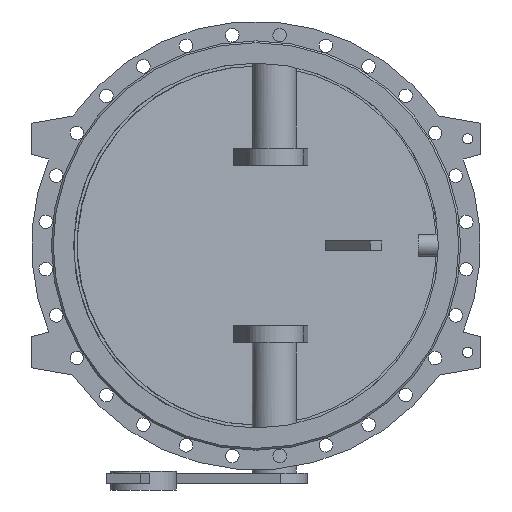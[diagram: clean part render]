
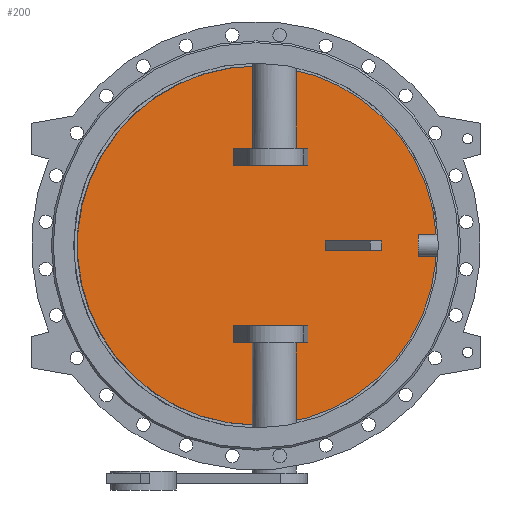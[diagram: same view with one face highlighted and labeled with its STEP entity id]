
A CAD part, front view. The second image highlights one B-rep face of the part: STEP entity #200.
In plain terms, the highlighted planar face has unit normal (0.131, -0.991, 0).
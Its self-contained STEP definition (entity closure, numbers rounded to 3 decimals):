
#200=ADVANCED_FACE('',(#1583,#1585,#1587,#1589),#1591,.T.);
#1583=FACE_BOUND('',#1584,.T.);
#1584=EDGE_LOOP('',(#3094));
#1585=FACE_BOUND('',#1586,.T.);
#1586=EDGE_LOOP('',(#3095,#3096,#3097,#3098));
#1587=FACE_BOUND('',#1588,.T.);
#1588=EDGE_LOOP('',(#3099,#3100,#3101,#3102));
#1589=FACE_BOUND('',#1590,.T.);
#1590=EDGE_LOOP('',(#3103,#3104,#3105,#3106));
#1591=PLANE('',#1592);
#1592=AXIS2_PLACEMENT_3D('',#1593,#1594,#1595);
#1593=CARTESIAN_POINT('',(-1.272,9.66,0.));
#1594=DIRECTION('',(0.131,-0.991,0.));
#1595=DIRECTION('',(0.,0.,-1.));
#3094=ORIENTED_EDGE('',*,*,#3711,.T.);
#3095=ORIENTED_EDGE('',*,*,#3715,.F.);
#3096=ORIENTED_EDGE('',*,*,#3716,.F.);
#3097=ORIENTED_EDGE('',*,*,#3717,.F.);
#3098=ORIENTED_EDGE('',*,*,#3718,.F.);
#3099=ORIENTED_EDGE('',*,*,#3719,.F.);
#3100=ORIENTED_EDGE('',*,*,#3720,.F.);
#3101=ORIENTED_EDGE('',*,*,#3721,.F.);
#3102=ORIENTED_EDGE('',*,*,#3722,.F.);
#3103=ORIENTED_EDGE('',*,*,#3723,.F.);
#3104=ORIENTED_EDGE('',*,*,#3724,.F.);
#3105=ORIENTED_EDGE('',*,*,#3725,.F.);
#3106=ORIENTED_EDGE('',*,*,#3726,.F.);
#3711=EDGE_CURVE('',#4056,#4056,#4057,.T.);
#3715=EDGE_CURVE('',#4064,#4065,#4066,.T.);
#3716=EDGE_CURVE('',#4067,#4064,#4068,.F.);
#3717=EDGE_CURVE('',#4069,#4067,#4070,.T.);
#3718=EDGE_CURVE('',#4065,#4069,#4071,.T.);
#3719=EDGE_CURVE('',#4072,#4073,#4074,.F.);
#3720=EDGE_CURVE('',#4075,#4072,#4076,.T.);
#3721=EDGE_CURVE('',#4077,#4075,#4078,.T.);
#3722=EDGE_CURVE('',#4073,#4077,#4079,.T.);
#3723=EDGE_CURVE('',#4080,#4081,#4082,.T.);
#3724=EDGE_CURVE('',#4083,#4080,#4084,.F.);
#3725=EDGE_CURVE('',#4085,#4083,#4086,.F.);
#3726=EDGE_CURVE('',#4081,#4085,#4087,.F.);
#4056=VERTEX_POINT('',#5252);
#4057=B_SPLINE_CURVE_WITH_KNOTS('',3,
(#5253,#5254,#5255,#5256,#5257,#5258,#5259,#5260,#5261,#5262,#5263,#5264,#5265,#5266,
#5267,#5268,#5269,#5270,#5271,#5272,#5273,#5274,#5275,#5276,#5277,#5278,#5279,#5280,
#5281,#5282,#5283,#5284,#5285,#5286,#5287,#5288,#5289,#5290,#5291,#5292,#5293,#5294,
#5295,#5296,#5297,#5298,#5299,#5300,#5301,#5302,#5303),
.UNSPECIFIED.,.T.,.F.,
(4,1,1,1,1,1,1,1,1,1,1,1,1,1,1,1,1,1,1,1,1,1,1,1,1,1,1,1,1,1,1,1,1,1,1,1,1,1,1,1,
1,1,1,1,1,1,1,1,4),
(0.,0.021,0.042,0.063,0.084,
0.105,0.126,0.147,0.168,0.189,
0.211,0.232,0.253,0.274,0.295,
0.316,0.337,0.358,0.379,0.4,
0.421,0.442,0.463,0.484,0.505,
0.527,0.548,0.569,0.59,0.611,
0.632,0.653,0.674,0.695,0.716,
0.737,0.758,0.779,0.8,0.821,
0.842,0.864,0.885,0.906,0.927,
0.948,0.969,0.986,1.),
.UNSPECIFIED.);
#4064=VERTEX_POINT('',#5366);
#4065=VERTEX_POINT('',#5367);
#4066=LINE('',#5368,#5369);
#4067=VERTEX_POINT('',#5371);
#4068=LINE('',#5372,#5373);
#4069=VERTEX_POINT('',#5375);
#4070=LINE('',#5376,#5377);
#4071=LINE('',#5379,#5380);
#4072=VERTEX_POINT('',#5382);
#4073=VERTEX_POINT('',#5383);
#4074=LINE('',#5384,#5385);
#4075=VERTEX_POINT('',#5387);
#4076=LINE('',#5388,#5389);
#4077=VERTEX_POINT('',#5391);
#4078=LINE('',#5392,#5393);
#4079=LINE('',#5395,#5396);
#4080=VERTEX_POINT('',#5398);
#4081=VERTEX_POINT('',#5399);
#4082=LINE('',#5400,#5401);
#4083=VERTEX_POINT('',#5403);
#4084=LINE('',#5404,#5405);
#4085=VERTEX_POINT('',#5407);
#4086=LINE('',#5408,#5409);
#4087=LINE('',#5411,#5412);
#5252=CARTESIAN_POINT('',(2.611,10.171,492.));
#5253=CARTESIAN_POINT('',(2.611,10.171,492.));
#5254=CARTESIAN_POINT('',(-19.012,7.324,492.));
#5255=CARTESIAN_POINT('',(-62.309,1.624,489.142));
#5256=CARTESIAN_POINT('',(-126.205,-6.788,476.332));
#5257=CARTESIAN_POINT('',(-187.936,-14.915,455.176));
#5258=CARTESIAN_POINT('',(-246.369,-22.608,426.038));
#5259=CARTESIAN_POINT('',(-300.428,-29.725,389.455));
#5260=CARTESIAN_POINT('',(-349.181,-36.143,346.062));
#5261=CARTESIAN_POINT('',(-391.774,-41.751,296.622));
#5262=CARTESIAN_POINT('',(-427.467,-46.45,242.002));
#5263=CARTESIAN_POINT('',(-455.638,-50.159,183.158));
#5264=CARTESIAN_POINT('',(-475.798,-52.813,121.116));
#5265=CARTESIAN_POINT('',(-487.596,-54.366,56.961));
#5266=CARTESIAN_POINT('',(-490.827,-54.791,-8.188));
#5267=CARTESIAN_POINT('',(-485.436,-54.081,-73.196));
#5268=CARTESIAN_POINT('',(-471.514,-52.249,-136.927));
#5269=CARTESIAN_POINT('',(-449.304,-49.325,-198.269));
#5270=CARTESIAN_POINT('',(-419.191,-45.36,-256.152));
#5271=CARTESIAN_POINT('',(-381.699,-40.424,-309.562));
#5272=CARTESIAN_POINT('',(-337.48,-34.603,-357.565));
#5273=CARTESIAN_POINT('',(-287.304,-27.997,-399.319));
#5274=CARTESIAN_POINT('',(-232.047,-20.722,-434.089));
#5275=CARTESIAN_POINT('',(-172.677,-12.906,-461.265));
#5276=CARTESIAN_POINT('',(-110.233,-4.685,-480.368));
#5277=CARTESIAN_POINT('',(-45.809,3.797,-491.059));
#5278=CARTESIAN_POINT('',(19.464,12.39,-493.152));
#5279=CARTESIAN_POINT('',(84.44,20.944,-486.61));
#5280=CARTESIAN_POINT('',(147.979,29.309,-471.547));
#5281=CARTESIAN_POINT('',(208.967,37.338,-448.231));
#5282=CARTESIAN_POINT('',(266.336,44.891,-417.073));
#5283=CARTESIAN_POINT('',(319.083,51.836,-378.622));
#5284=CARTESIAN_POINT('',(366.287,58.05,-333.553));
#5285=CARTESIAN_POINT('',(407.125,63.426,-282.656));
#5286=CARTESIAN_POINT('',(440.885,67.871,-226.824));
#5287=CARTESIAN_POINT('',(466.982,71.307,-167.032));
#5288=CARTESIAN_POINT('',(484.96,73.674,-104.325));
#5289=CARTESIAN_POINT('',(494.509,74.931,-39.798));
#5290=CARTESIAN_POINT('',(495.461,75.056,25.425));
#5291=CARTESIAN_POINT('',(487.8,74.048,90.205));
#5292=CARTESIAN_POINT('',(471.659,71.923,153.412));
#5293=CARTESIAN_POINT('',(447.318,68.718,213.942));
#5294=CARTESIAN_POINT('',(415.199,64.489,270.739));
#5295=CARTESIAN_POINT('',(375.861,59.31,322.807));
#5296=CARTESIAN_POINT('',(329.986,53.271,369.238));
#5297=CARTESIAN_POINT('',(278.391,46.478,409.203));
#5298=CARTESIAN_POINT('',(222.038,39.059,441.974));
#5299=CARTESIAN_POINT('',(161.743,31.121,467.086));
#5300=CARTESIAN_POINT('',(102.274,23.292,483.041));
#5301=CARTESIAN_POINT('',(48.806,16.253,490.619));
#5302=CARTESIAN_POINT('',(16.729,12.03,492.));
#5303=CARTESIAN_POINT('',(2.611,10.171,492.));
#5366=CARTESIAN_POINT('',(318.888,51.81,-12.5));
#5367=CARTESIAN_POINT('',(318.888,51.81,12.5));
#5368=CARTESIAN_POINT('',(318.888,51.81,-12.5));
#5369=VECTOR('',#5370,1.);
#5370=DIRECTION('',(0.,0.,1.));
#5371=CARTESIAN_POINT('',(190.,34.841,-12.5));
#5372=CARTESIAN_POINT('',(318.888,51.81,-12.5));
#5373=VECTOR('',#5374,1.);
#5374=DIRECTION('',(-0.991,-0.131,0.));
#5375=CARTESIAN_POINT('',(190.,34.841,12.5));
#5376=CARTESIAN_POINT('',(190.,34.841,12.5));
#5377=VECTOR('',#5378,1.);
#5378=DIRECTION('',(0.,0.,-1.));
#5379=CARTESIAN_POINT('',(318.888,51.81,12.5));
#5380=VECTOR('',#5381,1.);
#5381=DIRECTION('',(-0.991,-0.131,0.));
#5382=CARTESIAN_POINT('',(-62.127,1.648,-265.));
#5383=CARTESIAN_POINT('',(142.351,28.568,-265.));
#5384=CARTESIAN_POINT('',(142.351,28.568,-265.));
#5385=VECTOR('',#5386,1.);
#5386=DIRECTION('',(-0.991,-0.131,0.));
#5387=CARTESIAN_POINT('',(-62.127,1.648,-220.));
#5388=CARTESIAN_POINT('',(-62.127,1.648,-220.));
#5389=VECTOR('',#5390,1.);
#5390=DIRECTION('',(0.,0.,-1.));
#5391=CARTESIAN_POINT('',(142.351,28.568,-220.));
#5392=CARTESIAN_POINT('',(142.351,28.568,-220.));
#5393=VECTOR('',#5394,1.);
#5394=DIRECTION('',(-0.991,-0.131,0.));
#5395=CARTESIAN_POINT('',(142.351,28.568,-265.));
#5396=VECTOR('',#5397,1.);
#5397=DIRECTION('',(0.,0.,1.));
#5398=CARTESIAN_POINT('',(142.351,28.568,265.));
#5399=CARTESIAN_POINT('',(-62.127,1.648,265.));
#5400=CARTESIAN_POINT('',(142.351,28.568,265.));
#5401=VECTOR('',#5402,1.);
#5402=DIRECTION('',(-0.991,-0.131,0.));
#5403=CARTESIAN_POINT('',(142.351,28.568,220.));
#5404=CARTESIAN_POINT('',(142.351,28.568,265.));
#5405=VECTOR('',#5406,1.);
#5406=DIRECTION('',(0.,0.,-1.));
#5407=CARTESIAN_POINT('',(-62.127,1.648,220.));
#5408=CARTESIAN_POINT('',(142.351,28.568,220.));
#5409=VECTOR('',#5410,1.);
#5410=DIRECTION('',(-0.991,-0.131,0.));
#5411=CARTESIAN_POINT('',(-62.127,1.648,220.));
#5412=VECTOR('',#5413,1.);
#5413=DIRECTION('',(0.,0.,1.));
